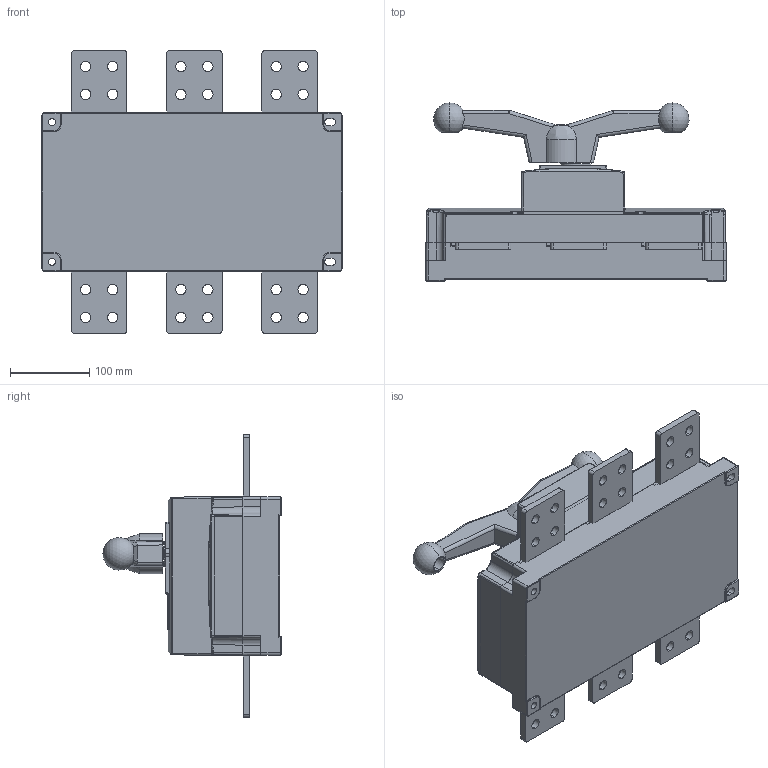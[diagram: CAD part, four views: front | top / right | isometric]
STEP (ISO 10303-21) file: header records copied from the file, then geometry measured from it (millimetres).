
FILE_DESCRIPTION((''),'2;1');
FILE_NAME('NH40-1000-3_3P_202010_ASM','2024-03-18T',('zhuanghy'),(''),'CREO PARAMETRIC BY PTC INC, 2018070','CREO PARAMETRIC BY PTC INC, 2018070','');
FILE_SCHEMA(('AUTOMOTIVE_DESIGN { 1 0 10303 214 1 1 1 1 }'));
Length unit declared in the file: millimetre
Products named in the file (19): ASM0020_ASM_ASM; ASM0019_ASM_ASM; ASM0018_ASM_ASM; ASM0017_ASM_ASM; ASM0016_ASM_ASM; ASM0015_ASM_ASM; NH40-1000_ASM_ASM; NH40-1000_1600_202107; NH40-1600-3-022_40_1; 1600-3-ZG_23_1_1; 1600-G_1_1_1; NH40-1000JINGCHUTOU_67_1; NH40-1600BOCHA_100_1; NH40-1000-3_ASM_1_ASM_ASM_ASM_1_ASM; NH40-1250-3_ASM_ASM_ASM_1_ASM; NH40-1250-3_ASM_ASM_1_ASM; NH40-1250-3_2020_10__ASM_1_ASM; NH40-1250-3_3P_202104_ASM; NH40-1000-3_3P_202010_ASM
Assembly tree (23 placements, depth 8):
  NH40-1000-3_3P_202010_ASM
    NH40-1000_ASM_ASM
      ASM0015_ASM_ASM
        ASM0016_ASM_ASM
          ASM0017_ASM_ASM
            ASM0018_ASM_ASM
              ASM0019_ASM_ASM
                ASM0020_ASM_ASM
    NH40-1000_1600_202107
    NH40-1250-3_3P_202104_ASM
      NH40-1250-3_2020_10__ASM_1_ASM
        NH40-1250-3_ASM_ASM_1_ASM
          NH40-1250-3_ASM_ASM_ASM_1_ASM
            NH40-1000-3_ASM_1_ASM_ASM_ASM_1_ASM
              NH40-1600-3-022_40_1
              1600-3-ZG_23_1_1
              1600-G_1_1_1
              NH40-1000JINGCHUTOU_67_1  x6
              NH40-1600BOCHA_100_1
Bounding box: 378 x 224.5 x 356 mm (x, y, z)
Volume: 10821181.2 mm3; surface area: 907804.4 mm2
Topology: 11 solids, 39 shells, 1444 faces, 3926 edges, 2544 vertices
Faces by surface type: plane 625, cylinder 536, torus 116, bspline 96, sphere 51, cone 20
Entity records: 51872 total; most frequent: CARTESIAN_POINT 18845, ORIENTED_EDGE 6924, DIRECTION 6632, EDGE_CURVE 3462, AXIS2_PLACEMENT_3D 2431, VERTEX_POINT 2234, VECTOR 1770, LINE 1770
